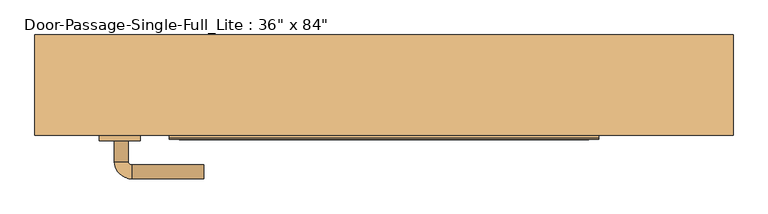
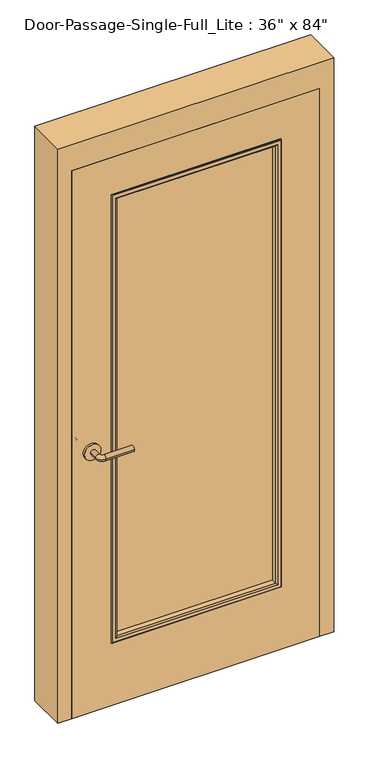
"""IFC4 building model written with IfcOpenShell, lengths in millimetres: door geometry."""

from ifc_helpers import new_model, si_unit, point, frame, frame_2d, origin, place, context, project, spatial, polyline, circle_curve, ellipse_curve, trimmed, segment, composite_curve, outline, extrude, faceted_brep, source, transform, mapped, element, save
from ifc_brep_helpers import plane_surface, cylinder_surface, revolved_surface, advanced_brep


def door_b5f71497(model_context):
    return source(origin(), model_context, "Body", "SolidModel", [
        advanced_brep(
        [(-392.190625, -15.8125, 1016.0), (-372.190625, -15.8125, 1016.0), (-392.190625, 14.1875, 1016.0), (-372.190625, 14.1875, 1016.0), (-367.190625, 19.1875, 1016.0), (-367.190625, 39.1875, 1016.0), (-262.190625, 39.1875, 1016.0), (-262.190625, 19.1875, 1016.0)],
        [
            (0, 1, circle_curve(frame((-382.190625, -15.8125, 1016.0), z_axis=(0.0, -1.0, 0.0), x_axis=(1.0, 0.0, 0.0)), 10.0)),
            (1, 0, circle_curve(frame((-382.190625, -15.8125, 1016.0), z_axis=(0.0, -1.0, 0.0), x_axis=(1.0, 0.0, 0.0)), 10.0)),
            (0, 2),
            (2, 3, circle_curve(frame((-382.190625, 14.1875, 1016.0), z_axis=(0.0, -1.0, 0.0), x_axis=(1.0, 0.0, 0.0)), 10.0)),
            (3, 1),
            (3, 2, circle_curve(frame((-382.190625, 14.1875, 1016.0), z_axis=(0.0, -1.0, 0.0), x_axis=(1.0, 0.0, 0.0)), 10.0)),
            (4, 3, circle_curve(frame((-367.190625, 14.1875, 1016.0), z_axis=(0.0, 0.0, 1.0), x_axis=(-1.0, 0.0, 0.0)), 5.0)),
            (2, 5, circle_curve(frame((-367.190625, 14.1875, 1016.0), z_axis=(0.0, 0.0, -1.0), x_axis=(-1.0, 0.0, 0.0)), 25.0)),
            (5, 4, circle_curve(frame((-367.190625, 29.1875, 1016.0), z_axis=(-1.0, 0.0, 0.0), x_axis=(0.0, -1.0, 0.0)), 10.0)),
            (4, 5, circle_curve(frame((-367.190625, 29.1875, 1016.0), z_axis=(-1.0, 0.0, 0.0), x_axis=(0.0, -1.0, 0.0)), 10.0)),
            (6, 7, circle_curve(frame((-262.190625, 29.1875, 1016.0), z_axis=(1.0, 0.0, 0.0), x_axis=(0.0, -1.0, 0.0)), 10.0)),
            (7, 6, circle_curve(frame((-262.190625, 29.1875, 1016.0), z_axis=(1.0, 0.0, 0.0), x_axis=(0.0, -1.0, 0.0)), 10.0)),
            (5, 6),
            (7, 4),
        ],
        [
            plane_surface(frame((-382.190625, -15.8125, 1016.0), z_axis=(0.0, -1.0, 0.0), x_axis=(0.0, 0.0, 1.0))),
            cylinder_surface(frame((-382.190625, -15.8125, 1016.0), z_axis=(0.0, -1.0, 0.0), x_axis=(1.0, 0.0, 0.0)), 10.0),
            revolved_surface(trimmed(ellipse_curve(frame((-382.190625, 14.1875, 1016.0), z_axis=(0.0, -1.0, 0.0), x_axis=(1.0, 0.0, 0.0)), 10.0, 10.0), [point((-392.190625, 14.1875, 1016.0))], [point((-372.190625, 14.1875, 1016.0))], True, "CARTESIAN"), (-367.190625, 14.1875, 1016.0), (0.0, 0.0, -1.0)),
            revolved_surface(trimmed(ellipse_curve(frame((-382.190625, 14.1875, 1016.0), z_axis=(0.0, -1.0, 0.0), x_axis=(1.0, 0.0, 0.0)), 10.0, 10.0), [point((-372.190625, 14.1875, 1016.0))], [point((-392.190625, 14.1875, 1016.0))], True, "CARTESIAN"), (-367.190625, 14.1875, 1016.0), (0.0, 0.0, -1.0)),
            plane_surface(frame((-262.190625, 29.1875, 1016.0), z_axis=(1.0, 0.0, 0.0), x_axis=(0.0, 0.0, 1.0))),
            cylinder_surface(frame((-367.190625, 29.1875, 1016.0), z_axis=(-1.0, 0.0, 0.0), x_axis=(0.0, -1.0, 0.0)), 10.0),
        ],
        [
            (0, [[1, 2]]),
            (1, [[-1, 3, 4, 5]]),
            (1, [[-2, -5, 6, -3]]),
            (2, [[7, -4, 8, 9]]),
            (3, [[-8, -6, -7, 10]]),
            (4, [[11, 12]]),
            (5, [[-9, 13, -12, 14]]),
            (5, [[-10, -14, -11, -13]]),
        ],
    ),
        extrude(outline(composite_curve([segment(trimmed(circle_curve(frame_2d((1016.0, -384.690625)), 30.0), [point((1016.0, -414.690625))], [point((1016.0, -354.690625))], False, "CARTESIAN"), True, "CONTINUOUS"), segment(trimmed(circle_curve(frame_2d((1016.0, -384.690625)), 30.0), [point((1016.0, -354.690625))], [point((1016.0, -414.690625))], False, "CARTESIAN"), True, "CONTINUOUS")], self_intersect=False)), frame((0.0, -23.8125, 0.0), z_axis=(0.0, 1.0, 0.0), x_axis=(0.0, 0.0, 1.0)), (0.0, 0.0, 1.0), 8.0),
        advanced_brep(
        [(-392.190625, -76.2625, 1016.0), (-372.190625, -76.2625, 1016.0), (-372.190625, -106.2625, 1016.0), (-392.190625, -106.2625, 1016.0), (-367.190625, -111.2625, 1016.0), (-367.190625, -131.2625, 1016.0), (-262.190625, -131.2625, 1016.0), (-262.190625, -111.2625, 1016.0)],
        [
            (0, 1, circle_curve(frame((-382.190625, -76.2625, 1016.0), z_axis=(0.0, 1.0, 0.0), x_axis=(1.0, 0.0, 0.0)), 10.0)),
            (1, 0, circle_curve(frame((-382.190625, -76.2625, 1016.0), z_axis=(0.0, 1.0, 0.0), x_axis=(1.0, 0.0, 0.0)), 10.0)),
            (1, 2),
            (2, 3, circle_curve(frame((-382.190625, -106.2625, 1016.0), z_axis=(0.0, 1.0, 0.0), x_axis=(1.0, 0.0, 0.0)), 10.0)),
            (3, 0),
            (3, 2, circle_curve(frame((-382.190625, -106.2625, 1016.0), z_axis=(0.0, 1.0, 0.0), x_axis=(1.0, 0.0, 0.0)), 10.0)),
            (4, 5, circle_curve(frame((-367.190625, -121.2625, 1016.0), z_axis=(-1.0, 0.0, 0.0), x_axis=(0.0, 1.0, 0.0)), 10.0)),
            (5, 3, circle_curve(frame((-367.190625, -106.2625, 1016.0), z_axis=(0.0, 0.0, -1.0), x_axis=(-1.0, 0.0, 0.0)), 25.0)),
            (2, 4, circle_curve(frame((-367.190625, -106.2625, 1016.0), z_axis=(0.0, 0.0, 1.0), x_axis=(-1.0, 0.0, 0.0)), 5.0)),
            (5, 4, circle_curve(frame((-367.190625, -121.2625, 1016.0), z_axis=(-1.0, 0.0, 0.0), x_axis=(0.0, 1.0, 0.0)), 10.0)),
            (6, 7, circle_curve(frame((-262.190625, -121.2625, 1016.0), z_axis=(1.0, 0.0, 0.0), x_axis=(0.0, 1.0, 0.0)), 10.0)),
            (7, 6, circle_curve(frame((-262.190625, -121.2625, 1016.0), z_axis=(1.0, 0.0, 0.0), x_axis=(0.0, 1.0, 0.0)), 10.0)),
            (4, 7),
            (6, 5),
        ],
        [
            plane_surface(frame((-382.190625, -76.2625, 1016.0), z_axis=(0.0, 1.0, 0.0), x_axis=(0.0, 0.0, 1.0))),
            cylinder_surface(frame((-382.190625, -76.2625, 1016.0), z_axis=(0.0, 1.0, 0.0), x_axis=(1.0, 0.0, 0.0)), 10.0),
            revolved_surface(trimmed(ellipse_curve(frame((-382.190625, -106.2625, 1016.0), z_axis=(0.0, -1.0, 0.0), x_axis=(1.0, 0.0, 0.0)), 10.0, 10.0), [point((-392.190625, -106.2625, 1016.0))], [point((-372.190625, -106.2625, 1016.0))], True, "CARTESIAN"), (-367.190625, -106.2625, 1016.0), (0.0, 0.0, -1.0)),
            revolved_surface(trimmed(ellipse_curve(frame((-382.190625, -106.2625, 1016.0), z_axis=(0.0, -1.0, 0.0), x_axis=(1.0, 0.0, 0.0)), 10.0, 10.0), [point((-372.190625, -106.2625, 1016.0))], [point((-392.190625, -106.2625, 1016.0))], True, "CARTESIAN"), (-367.190625, -106.2625, 1016.0), (0.0, 0.0, -1.0)),
            plane_surface(frame((-262.190625, -121.2625, 1016.0), z_axis=(1.0, 0.0, 0.0), x_axis=(0.0, 0.0, 1.0))),
            cylinder_surface(frame((-367.190625, -121.2625, 1016.0), z_axis=(-1.0, 0.0, 0.0), x_axis=(0.0, 1.0, 0.0)), 10.0),
        ],
        [
            (0, [[1, 2]]),
            (1, [[3, 4, 5, -2]]),
            (1, [[-5, 6, -3, -1]]),
            (2, [[7, 8, -4, 9]]),
            (3, [[10, -9, -6, -8]]),
            (4, [[11, 12]]),
            (5, [[13, -11, 14, -7]]),
            (5, [[-14, -12, -13, -10]]),
        ],
    ),
        extrude(outline(composite_curve([segment(trimmed(circle_curve(frame_2d((1016.0, -384.690625)), 30.0), [point((1016.0, -414.690625))], [point((1016.0, -354.690625))], False, "CARTESIAN"), True, "CONTINUOUS"), segment(trimmed(circle_curve(frame_2d((1016.0, -384.690625)), 30.0), [point((1016.0, -354.690625))], [point((1016.0, -414.690625))], False, "CARTESIAN"), True, "CONTINUOUS")], self_intersect=False)), frame((0.0, -76.2625, 0.0), z_axis=(0.0, 1.0, 0.0), x_axis=(0.0, 0.0, 1.0)), (0.0, 0.0, 1.0), 8.0),
        extrude(outline(polyline([(304.8, -42.8625), (304.8, -49.2125), (-304.8, -49.2125), (-304.8, -42.8625), (304.8, -42.8625)])), frame((0.0, 0.0, 254.0), z_axis=(0.0, 0.0, 1.0), x_axis=(1.0, 0.0, 0.0)), (0.0, 0.0, 1.0), 1727.2),
        faceted_brep([(457.2, -19.05, 0.0), (441.325, -19.05, 0.0), (441.325, 28.575, 0.0), (457.2, 28.575, 0.0), (457.2, 77.7875, 0.0), (508.0, 77.7875, 0.0), (508.0, -68.2625, 0.0), (457.2, -68.2625, 0.0), (457.2, -68.2625, 2133.6), (457.2, -19.05, 2133.6), (508.0, -68.2625, 2235.2), (-508.0, -68.2625, 2235.2), (-508.0, -68.2625, 0.0), (-457.2, -68.2625, 0.0), (-457.2, -68.2625, 2133.6), (508.0, 77.7875, 2235.2), (457.2, 77.7875, 2133.6), (-457.2, 77.7875, 2133.6), (-457.2, 77.7875, 0.0), (-508.0, 77.7875, 0.0), (-508.0, 77.7875, 2235.2), (457.2, 28.575, 2133.6), (441.325, 28.575, 2117.725), (-441.325, 28.575, 2117.725), (-441.325, 28.575, 0.0), (-457.2, 28.575, 0.0), (-457.2, 28.575, 2133.6), (441.325, -19.05, 2117.725), (-457.2, -19.05, 2133.6), (-457.2, -19.05, 0.0), (-441.325, -19.05, 0.0), (-441.325, -19.05, 2117.725)], [[[0, 1, 2, 3, 4, 5, 6, 7]], [[7, 8, 9, 0]], [[6, 10, 11, 12, 13, 14, 8, 7]], [[5, 15, 10, 6]], [[4, 16, 17, 18, 19, 20, 15, 5]], [[3, 21, 16, 4]], [[2, 22, 23, 24, 25, 26, 21, 3]], [[1, 27, 22, 2]], [[0, 9, 28, 29, 30, 31, 27, 1]], [[8, 14, 28, 9]], [[16, 21, 26, 17]], [[22, 27, 31, 23]], [[12, 19, 18, 25, 24, 30, 29, 13]], [[13, 29, 28, 14]], [[11, 20, 19, 12]], [[17, 26, 25, 18]], [[23, 31, 30, 24]], [[15, 20, 11, 10]]]),
        extrude(outline(polyline([(2133.6, -457.2), (0.0, -457.2), (0.0, 457.2), (2133.6, 457.2), (2133.6, -457.2)]), holes=[polyline([(1981.2, -304.8), (1981.2, 304.8), (254.0, 304.8), (254.0, -304.8), (1981.2, -304.8)])]), frame((0.0, -68.2625, 0.0), z_axis=(0.0, 1.0, 0.0), x_axis=(0.0, 0.0, 1.0)), (0.0, 0.0, 1.0), 44.45),
        advanced_brep(
        [(-304.8, -49.2125, 1981.2), (-304.8, -49.2125, 254.0), (-304.8, -68.2625, 254.0), (-304.8, -68.2625, 1981.2), (-292.8, -69.2625, 1969.2), (-292.8, -69.2625, 266.0), (-292.8, -49.2125, 266.0), (-292.8, -49.2125, 1969.2), (-297.8, -74.2625, 1974.2), (-297.8, -74.2625, 261.0), (-312.8, -72.2625, 1989.2), (-312.8, -72.2625, 246.0), (-310.8, -74.2625, 248.0), (-310.8, -74.2625, 1987.2), (-312.8, -68.2625, 1989.2), (-312.8, -68.2625, 246.0), (304.8, -49.2125, 254.0), (304.8, -68.2625, 254.0), (292.8, -69.2625, 266.0), (292.8, -49.2125, 266.0), (297.8, -74.2625, 261.0), (312.8, -72.2625, 246.0), (310.8, -74.2625, 248.0), (312.8, -68.2625, 246.0), (304.8, -49.2125, 1981.2), (304.8, -68.2625, 1981.2), (292.8, -69.2625, 1969.2), (292.8, -49.2125, 1969.2), (297.8, -74.2625, 1974.2), (312.8, -72.2625, 1989.2), (310.8, -74.2625, 1987.2), (312.8, -68.2625, 1989.2)],
        [
            (0, 1),
            (1, 2),
            (2, 3),
            (3, 0),
            (4, 5),
            (5, 6),
            (6, 7),
            (7, 4),
            (8, 9),
            (9, 5, ellipse_curve(frame((-297.8, -69.2625, 261.0), z_axis=(-0.7071067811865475, 0.0, 0.7071067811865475), x_axis=(0.7071067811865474, 0.0, 0.7071067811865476)), 7.0710678, 5.0)),
            (4, 8, ellipse_curve(frame((-297.8, -69.2625, 1974.2), z_axis=(-0.7071067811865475, 0.0, -0.7071067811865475), x_axis=(-0.7071067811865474, 0.0, 0.7071067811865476)), 7.0710678, 5.0)),
            (10, 11),
            (11, 12, ellipse_curve(frame((-310.8, -72.2625, 248.0), z_axis=(-0.7071067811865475, 0.0, 0.7071067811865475), x_axis=(0.7071067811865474, 0.0, 0.7071067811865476)), 2.8284271, 2.0)),
            (12, 13),
            (13, 10, ellipse_curve(frame((-310.8, -72.2625, 1987.2), z_axis=(-0.7071067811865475, 0.0, -0.7071067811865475), x_axis=(-0.7071067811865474, 0.0, 0.7071067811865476)), 2.8284271, 2.0)),
            (14, 15),
            (15, 11),
            (10, 14),
            (1, 16),
            (16, 17),
            (17, 2),
            (5, 18),
            (18, 19),
            (19, 6),
            (9, 20),
            (20, 18, ellipse_curve(frame((297.8, -69.2625, 261.0), z_axis=(-0.7071067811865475, 0.0, -0.7071067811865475), x_axis=(-0.7071067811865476, 0.0, 0.7071067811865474)), 7.0710678, 5.0)),
            (11, 21),
            (21, 22, ellipse_curve(frame((310.8, -72.2625, 248.0), z_axis=(-0.7071067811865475, 0.0, -0.7071067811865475), x_axis=(-0.7071067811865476, 0.0, 0.7071067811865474)), 2.8284271, 2.0)),
            (22, 12),
            (15, 23),
            (23, 21),
            (16, 24),
            (24, 25),
            (25, 17),
            (18, 26),
            (26, 27),
            (27, 19),
            (20, 28),
            (28, 26, ellipse_curve(frame((297.8, -69.2625, 1974.2), z_axis=(0.7071067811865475, 0.0, -0.7071067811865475), x_axis=(-0.7071067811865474, 0.0, -0.7071067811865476)), 7.0710678, 5.0)),
            (21, 29),
            (29, 30, ellipse_curve(frame((310.8, -72.2625, 1987.2), z_axis=(0.7071067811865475, 0.0, -0.7071067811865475), x_axis=(-0.7071067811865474, 0.0, -0.7071067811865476)), 2.8284271, 2.0)),
            (30, 22),
            (23, 31),
            (31, 29),
            (14, 31),
            (25, 3),
            (24, 0),
            (27, 7),
            (26, 4),
            (28, 8),
            (30, 13),
            (29, 10),
        ],
        [
            plane_surface(frame((-304.8, -68.2625, 1981.2), z_axis=(-1.0, 0.0, 0.0), x_axis=(0.0, 0.0, -1.0))),
            plane_surface(frame((-292.8, -49.2125, 1969.2), z_axis=(1.0, 0.0, 0.0), x_axis=(0.0, 0.0, -1.0))),
            cylinder_surface(frame((-297.8, -69.2625, 1981.2), z_axis=(0.0, 0.0, 1.0), x_axis=(-1.0, 0.0, 0.0)), 5.0),
            cylinder_surface(frame((-310.8, -72.2625, 1981.2), z_axis=(0.0, 0.0, 1.0), x_axis=(-1.0, 0.0, 0.0)), 2.0),
            plane_surface(frame((-312.8, -72.2625, 1989.2), z_axis=(-1.0, 0.0, 0.0), x_axis=(0.0, 0.0, -1.0))),
            plane_surface(frame((-304.8, -68.2625, 254.0), z_axis=(0.0, 0.0, -1.0), x_axis=(1.0, 0.0, 0.0))),
            plane_surface(frame((-292.8, -49.2125, 266.0), z_axis=(0.0, 0.0, 1.0), x_axis=(1.0, 0.0, 0.0))),
            cylinder_surface(frame((-304.8, -69.2625, 261.0), z_axis=(-1.0, 0.0, 0.0), x_axis=(0.0, 0.0, -1.0)), 5.0),
            cylinder_surface(frame((-304.8, -72.2625, 248.0), z_axis=(-1.0, 0.0, 0.0), x_axis=(0.0, 0.0, -1.0)), 2.0),
            plane_surface(frame((-312.8, -72.2625, 246.0), z_axis=(0.0, 0.0, -1.0), x_axis=(1.0, 0.0, 0.0))),
            plane_surface(frame((304.8, -68.2625, 254.0), z_axis=(1.0, 0.0, 0.0), x_axis=(0.0, 0.0, 1.0))),
            plane_surface(frame((292.8, -49.2125, 266.0), z_axis=(-1.0, 0.0, 0.0), x_axis=(0.0, 0.0, 1.0))),
            cylinder_surface(frame((297.8, -69.2625, 254.0), z_axis=(0.0, 0.0, -1.0), x_axis=(1.0, 0.0, 0.0)), 5.0),
            cylinder_surface(frame((310.8, -72.2625, 254.0), z_axis=(0.0, 0.0, -1.0), x_axis=(1.0, 0.0, 0.0)), 2.0),
            plane_surface(frame((312.8, -72.2625, 246.0), z_axis=(1.0, 0.0, 0.0), x_axis=(0.0, 0.0, 1.0))),
            plane_surface(frame((312.8, -68.2625, 1989.2), z_axis=(0.0, 1.0, 0.0), x_axis=(-1.0, 0.0, 0.0))),
            plane_surface(frame((304.8, -68.2625, 1981.2), z_axis=(0.0, 0.0, 1.0), x_axis=(-1.0, 0.0, 0.0))),
            plane_surface(frame((304.8, -49.2125, 1981.2), z_axis=(0.0, 1.0, 0.0), x_axis=(-1.0, 0.0, 0.0))),
            plane_surface(frame((292.8, -49.2125, 1969.2), z_axis=(0.0, 0.0, -1.0), x_axis=(-1.0, 0.0, 0.0))),
            cylinder_surface(frame((304.8, -69.2625, 1974.2), z_axis=(1.0, 0.0, 0.0), x_axis=(0.0, 0.0, 1.0)), 5.0),
            plane_surface(frame((297.8, -74.2625, 1974.2), z_axis=(0.0, -1.0, 0.0), x_axis=(-1.0, 0.0, 0.0))),
            cylinder_surface(frame((304.8, -72.2625, 1987.2), z_axis=(1.0, 0.0, 0.0), x_axis=(0.0, 0.0, 1.0)), 2.0),
            plane_surface(frame((312.8, -72.2625, 1989.2), z_axis=(0.0, 0.0, 1.0), x_axis=(-1.0, 0.0, 0.0))),
        ],
        [
            (0, [[1, 2, 3, 4]]),
            (1, [[5, 6, 7, 8]]),
            (2, [[9, 10, -5, 11]]),
            (3, [[12, 13, 14, 15]]),
            (4, [[16, 17, -12, 18]]),
            (5, [[19, 20, 21, -2]]),
            (6, [[22, 23, 24, -6]]),
            (7, [[25, 26, -22, -10]]),
            (8, [[27, 28, 29, -13]]),
            (9, [[30, 31, -27, -17]]),
            (10, [[32, 33, 34, -20]]),
            (11, [[35, 36, 37, -23]]),
            (12, [[38, 39, -35, -26]]),
            (13, [[40, 41, 42, -28]]),
            (14, [[43, 44, -40, -31]]),
            (15, [[-16, 45, -43, -30], [-3, -21, -34, 46]]),
            (16, [[47, -4, -46, -33]]),
            (17, [[-1, -47, -32, -19], [-7, -24, -37, 48]]),
            (18, [[49, -8, -48, -36]]),
            (19, [[50, -11, -49, -39]]),
            (20, [[-14, -29, -42, 51], [-9, -50, -38, -25]]),
            (21, [[52, -15, -51, -41]]),
            (22, [[-45, -18, -52, -44]]),
        ],
    ),
        advanced_brep(
        [(-304.8, -42.8625, 254.0), (-304.8, -42.8625, 1981.2), (-304.8, -23.8125, 1981.2), (-304.8, -23.8125, 254.0), (-292.8, -22.8125, 266.0), (-292.8, -22.8125, 1969.2), (-292.8, -42.8625, 1969.2), (-292.8, -42.8625, 266.0), (-297.8, -17.8125, 261.0), (-297.8, -17.8125, 1974.2), (-312.8, -19.8125, 246.0), (-312.8, -19.8125, 1989.2), (-310.8, -17.8125, 1987.2), (-310.8, -17.8125, 248.0), (-312.8, -23.8125, 246.0), (-312.8, -23.8125, 1989.2), (304.8, -42.8625, 1981.2), (304.8, -23.8125, 1981.2), (292.8, -22.8125, 1969.2), (292.8, -42.8625, 1969.2), (297.8, -17.8125, 1974.2), (312.8, -19.8125, 1989.2), (310.8, -17.8125, 1987.2), (312.8, -23.8125, 1989.2), (304.8, -42.8625, 254.0), (304.8, -23.8125, 254.0), (292.8, -22.8125, 266.0), (292.8, -42.8625, 266.0), (297.8, -17.8125, 261.0), (312.8, -19.8125, 246.0), (310.8, -17.8125, 248.0), (312.8, -23.8125, 246.0)],
        [
            (0, 1),
            (1, 2),
            (2, 3),
            (3, 0),
            (4, 5),
            (5, 6),
            (6, 7),
            (7, 4),
            (8, 9),
            (9, 5, ellipse_curve(frame((-297.8, -22.8125, 1974.2), z_axis=(-0.7071067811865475, 0.0, -0.7071067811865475), x_axis=(0.7071067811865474, 0.0, -0.7071067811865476)), 7.0710678, 5.0)),
            (4, 8, ellipse_curve(frame((-297.8, -22.8125, 261.0), z_axis=(-0.7071067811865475, 0.0, 0.7071067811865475), x_axis=(-0.7071067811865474, 0.0, -0.7071067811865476)), 7.0710678, 5.0)),
            (10, 11),
            (11, 12, ellipse_curve(frame((-310.8, -19.8125, 1987.2), z_axis=(-0.7071067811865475, 0.0, -0.7071067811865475), x_axis=(0.7071067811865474, 0.0, -0.7071067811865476)), 2.8284271, 2.0)),
            (12, 13),
            (13, 10, ellipse_curve(frame((-310.8, -19.8125, 248.0), z_axis=(-0.7071067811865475, 0.0, 0.7071067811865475), x_axis=(-0.7071067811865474, 0.0, -0.7071067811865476)), 2.8284271, 2.0)),
            (14, 15),
            (15, 11),
            (10, 14),
            (1, 16),
            (16, 17),
            (17, 2),
            (5, 18),
            (18, 19),
            (19, 6),
            (9, 20),
            (20, 18, ellipse_curve(frame((297.8, -22.8125, 1974.2), z_axis=(-0.7071067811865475, 0.0, 0.7071067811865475), x_axis=(-0.7071067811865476, 0.0, -0.7071067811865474)), 7.0710678, 5.0)),
            (11, 21),
            (21, 22, ellipse_curve(frame((310.8, -19.8125, 1987.2), z_axis=(-0.7071067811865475, 0.0, 0.7071067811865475), x_axis=(-0.7071067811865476, 0.0, -0.7071067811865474)), 2.8284271, 2.0)),
            (22, 12),
            (15, 23),
            (23, 21),
            (16, 24),
            (24, 25),
            (25, 17),
            (18, 26),
            (26, 27),
            (27, 19),
            (20, 28),
            (28, 26, ellipse_curve(frame((297.8, -22.8125, 261.0), z_axis=(0.7071067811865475, 0.0, 0.7071067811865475), x_axis=(-0.7071067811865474, 0.0, 0.7071067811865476)), 7.0710678, 5.0)),
            (21, 29),
            (29, 30, ellipse_curve(frame((310.8, -19.8125, 248.0), z_axis=(0.7071067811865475, 0.0, 0.7071067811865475), x_axis=(-0.7071067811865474, 0.0, 0.7071067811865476)), 2.8284271, 2.0)),
            (30, 22),
            (23, 31),
            (31, 29),
            (14, 31),
            (25, 3),
            (24, 0),
            (27, 7),
            (26, 4),
            (28, 8),
            (30, 13),
            (29, 10),
        ],
        [
            plane_surface(frame((-304.8, -23.8125, 254.0), z_axis=(-1.0, 0.0, 0.0), x_axis=(0.0, 0.0, 1.0))),
            plane_surface(frame((-292.8, -42.8625, 266.0), z_axis=(1.0, 0.0, 0.0), x_axis=(0.0, 0.0, 1.0))),
            cylinder_surface(frame((-297.8, -22.8125, 254.0), z_axis=(0.0, 0.0, -1.0), x_axis=(-1.0, 0.0, 0.0)), 5.0),
            cylinder_surface(frame((-310.8, -19.8125, 254.0), z_axis=(0.0, 0.0, -1.0), x_axis=(-1.0, 0.0, 0.0)), 2.0),
            plane_surface(frame((-312.8, -19.8125, 246.0), z_axis=(-1.0, 0.0, 0.0), x_axis=(0.0, 0.0, 1.0))),
            plane_surface(frame((-304.8, -23.8125, 1981.2), z_axis=(0.0, 0.0, 1.0), x_axis=(1.0, 0.0, 0.0))),
            plane_surface(frame((-292.8, -42.8625, 1969.2), z_axis=(0.0, 0.0, -1.0), x_axis=(1.0, 0.0, 0.0))),
            cylinder_surface(frame((-304.8, -22.8125, 1974.2), z_axis=(-1.0, 0.0, 0.0), x_axis=(0.0, 0.0, 1.0)), 5.0),
            cylinder_surface(frame((-304.8, -19.8125, 1987.2), z_axis=(-1.0, 0.0, 0.0), x_axis=(0.0, 0.0, 1.0)), 2.0),
            plane_surface(frame((-312.8, -19.8125, 1989.2), z_axis=(0.0, 0.0, 1.0), x_axis=(1.0, 0.0, 0.0))),
            plane_surface(frame((304.8, -23.8125, 1981.2), z_axis=(1.0, 0.0, 0.0), x_axis=(0.0, 0.0, -1.0))),
            plane_surface(frame((292.8, -42.8625, 1969.2), z_axis=(-1.0, 0.0, 0.0), x_axis=(0.0, 0.0, -1.0))),
            cylinder_surface(frame((297.8, -22.8125, 1981.2), z_axis=(0.0, 0.0, 1.0), x_axis=(1.0, 0.0, 0.0)), 5.0),
            cylinder_surface(frame((310.8, -19.8125, 1981.2), z_axis=(0.0, 0.0, 1.0), x_axis=(1.0, 0.0, 0.0)), 2.0),
            plane_surface(frame((312.8, -19.8125, 1989.2), z_axis=(1.0, 0.0, 0.0), x_axis=(0.0, 0.0, -1.0))),
            plane_surface(frame((312.8, -23.8125, 246.0), z_axis=(0.0, -1.0, 0.0), x_axis=(-1.0, 0.0, 0.0))),
            plane_surface(frame((304.8, -23.8125, 254.0), z_axis=(0.0, 0.0, -1.0), x_axis=(-1.0, 0.0, 0.0))),
            plane_surface(frame((304.8, -42.8625, 254.0), z_axis=(0.0, -1.0, 0.0), x_axis=(-1.0, 0.0, 0.0))),
            plane_surface(frame((292.8, -42.8625, 266.0), z_axis=(0.0, 0.0, 1.0), x_axis=(-1.0, 0.0, 0.0))),
            cylinder_surface(frame((304.8, -22.8125, 261.0), z_axis=(1.0, 0.0, 0.0), x_axis=(0.0, 0.0, -1.0)), 5.0),
            plane_surface(frame((297.8, -17.8125, 261.0), z_axis=(0.0, 1.0, 0.0), x_axis=(-1.0, 0.0, 0.0))),
            cylinder_surface(frame((304.8, -19.8125, 248.0), z_axis=(1.0, 0.0, 0.0), x_axis=(0.0, 0.0, -1.0)), 2.0),
            plane_surface(frame((312.8, -19.8125, 246.0), z_axis=(0.0, 0.0, -1.0), x_axis=(-1.0, 0.0, 0.0))),
        ],
        [
            (0, [[1, 2, 3, 4]]),
            (1, [[5, 6, 7, 8]]),
            (2, [[9, 10, -5, 11]]),
            (3, [[12, 13, 14, 15]]),
            (4, [[16, 17, -12, 18]]),
            (5, [[19, 20, 21, -2]]),
            (6, [[22, 23, 24, -6]]),
            (7, [[25, 26, -22, -10]]),
            (8, [[27, 28, 29, -13]]),
            (9, [[30, 31, -27, -17]]),
            (10, [[32, 33, 34, -20]]),
            (11, [[35, 36, 37, -23]]),
            (12, [[38, 39, -35, -26]]),
            (13, [[40, 41, 42, -28]]),
            (14, [[43, 44, -40, -31]]),
            (15, [[-16, 45, -43, -30], [-3, -21, -34, 46]]),
            (16, [[47, -4, -46, -33]]),
            (17, [[-1, -47, -32, -19], [-7, -24, -37, 48]]),
            (18, [[49, -8, -48, -36]]),
            (19, [[50, -11, -49, -39]]),
            (20, [[-14, -29, -42, 51], [-9, -50, -38, -25]]),
            (21, [[52, -15, -51, -41]]),
            (22, [[-45, -18, -52, -44]]),
        ],
    ),
    ])


if __name__ == "__main__":
    model = new_model("IFC4")
    model_context = context("Model", 3, world=origin())
    ifc_project = project(units=[si_unit("LENGTHUNIT", "METRE", prefix="MILLI")], contexts=[model_context])
    site = spatial("IfcSite", under=ifc_project)
    building = spatial("IfcBuilding", under=site)
    placement = place(None, origin())
    door_shape = door_b5f71497(model_context)
    element("IfcDoor", 1, ObjectType="Door-Passage-Single-Full_Lite : 36\" x 84\"", at=placement, inside=building, context=model_context, shape_type="MappedRepresentation", body=[
        mapped(door_shape, transform((0.0, 0.0, 0.0), x_axis=(1.0, 0.0, 0.0), y_axis=(0.0, 1.0, 0.0), z_axis=(0.0, 0.0, 1.0))),
    ])
    save(model, "model.ifc")
